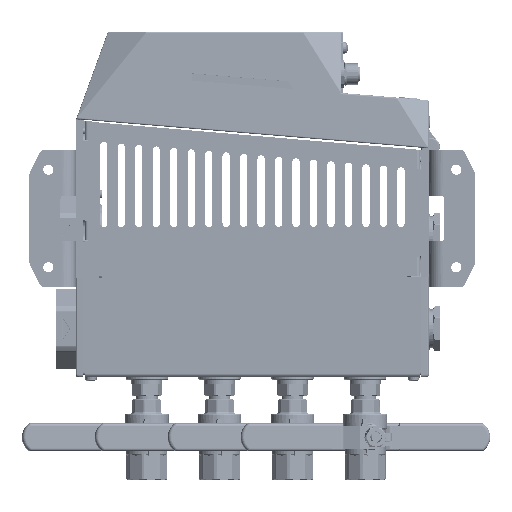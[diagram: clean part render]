
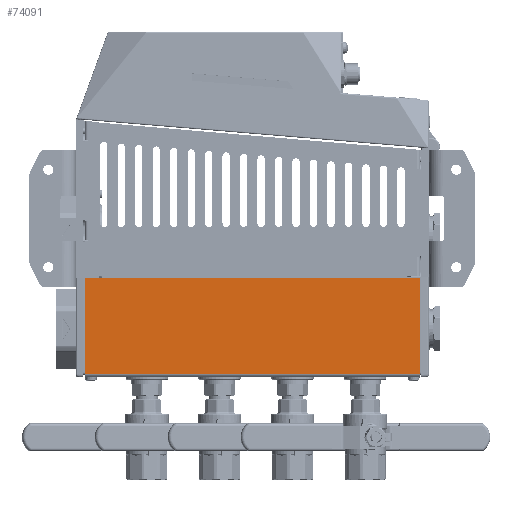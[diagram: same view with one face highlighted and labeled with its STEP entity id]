
A CAD part, left-side view. The second image highlights one B-rep face of the part: STEP entity #74091.
In plain terms, the highlighted planar face has unit normal (-1, 0, 0) as drawn and (0, -1, 0) by its records, which use the part's own axes.
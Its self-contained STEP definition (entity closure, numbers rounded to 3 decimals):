
#667 = VECTOR ( 'NONE', #135180, 1000. ) ;
#12680 = CARTESIAN_POINT ( 'NONE',  ( 67., -84., 114. ) ) ;
#14188 = VERTEX_POINT ( 'NONE', #307309 ) ;
#24443 = EDGE_LOOP ( 'NONE', ( #127348, #259885, #280673, #180350, #246643, #103705 ) ) ;
#74091 = ADVANCED_FACE ( 'NONE', ( #353110 ), #322334, .T. ) ;
#74755 = DIRECTION ( 'NONE',  ( 0., 0., -1. ) ) ;
#84062 = DIRECTION ( 'NONE',  ( 0., 1., 0. ) ) ;
#87153 = DIRECTION ( 'NONE',  ( 0., 0., -1. ) ) ;
#97928 = EDGE_CURVE ( 'NONE', #223920, #201140, #266565, .T. ) ;
#101214 = EDGE_CURVE ( 'NONE', #203849, #304661, #194872, .T. ) ;
#102175 = CIRCLE ( 'NONE', #310320, 1. ) ;
#103705 = ORIENTED_EDGE ( 'NONE', *, *, #192013, .F. ) ;
#105300 = EDGE_CURVE ( 'NONE', #201140, #167337, #102175, .T. ) ;
#109870 = CARTESIAN_POINT ( 'NONE',  ( 0., -84., -115. ) ) ;
#126757 = CARTESIAN_POINT ( 'NONE',  ( 0., -84., 115. ) ) ;
#127348 = ORIENTED_EDGE ( 'NONE', *, *, #219606, .F. ) ;
#133633 = VECTOR ( 'NONE', #87153, 1000. ) ;
#135180 = DIRECTION ( 'NONE',  ( 1., 0., 0. ) ) ;
#144992 = DIRECTION ( 'NONE',  ( 0., 1., 0. ) ) ;
#149033 = CARTESIAN_POINT ( 'NONE',  ( 68., -84., 115. ) ) ;
#165421 = DIRECTION ( 'NONE',  ( -1., 0., 0. ) ) ;
#167337 = VERTEX_POINT ( 'NONE', #339656 ) ;
#180350 = ORIENTED_EDGE ( 'NONE', *, *, #182591, .T. ) ;
#181828 = AXIS2_PLACEMENT_3D ( 'NONE', #357513, #84062, #165421 ) ;
#182591 = EDGE_CURVE ( 'NONE', #223920, #203849, #333488, .T. ) ;
#184981 = VECTOR ( 'NONE', #74755, 1000. ) ;
#192013 = EDGE_CURVE ( 'NONE', #14188, #304661, #326486, .T. ) ;
#194872 = LINE ( 'NONE', #109870, #667 ) ;
#201140 = VERTEX_POINT ( 'NONE', #247199 ) ;
#203849 = VERTEX_POINT ( 'NONE', #310798 ) ;
#215294 = DIRECTION ( 'NONE',  ( -1., 0., 0. ) ) ;
#217793 = CARTESIAN_POINT ( 'NONE',  ( 67., -84., -115. ) ) ;
#219606 = EDGE_CURVE ( 'NONE', #167337, #14188, #320963, .T. ) ;
#223920 = VERTEX_POINT ( 'NONE', #267248 ) ;
#239676 = CARTESIAN_POINT ( 'NONE',  ( 2., -84., 115. ) ) ;
#246643 = ORIENTED_EDGE ( 'NONE', *, *, #101214, .T. ) ;
#247199 = CARTESIAN_POINT ( 'NONE',  ( 67., -84., 115. ) ) ;
#255243 = DIRECTION ( 'NONE',  ( -1., 0., 0. ) ) ;
#259885 = ORIENTED_EDGE ( 'NONE', *, *, #105300, .F. ) ;
#266565 = LINE ( 'NONE', #348354, #333360 ) ;
#267248 = CARTESIAN_POINT ( 'NONE',  ( 2., -84., 115. ) ) ;
#267787 = DIRECTION ( 'NONE',  ( 0., -1., 0. ) ) ;
#280673 = ORIENTED_EDGE ( 'NONE', *, *, #97928, .F. ) ;
#304661 = VERTEX_POINT ( 'NONE', #217793 ) ;
#307309 = CARTESIAN_POINT ( 'NONE',  ( 68., -84., -114. ) ) ;
#307785 = AXIS2_PLACEMENT_3D ( 'NONE', #126757, #267787, #215294 ) ;
#310320 = AXIS2_PLACEMENT_3D ( 'NONE', #12680, #144992, #255243 ) ;
#310798 = CARTESIAN_POINT ( 'NONE',  ( 2., -84., -115. ) ) ;
#320963 = LINE ( 'NONE', #149033, #184981 ) ;
#322334 = PLANE ( 'NONE',  #307785 ) ;
#326486 = CIRCLE ( 'NONE', #181828, 1. ) ;
#333360 = VECTOR ( 'NONE', #346552, 1000. ) ;
#333488 = LINE ( 'NONE', #239676, #133633 ) ;
#339656 = CARTESIAN_POINT ( 'NONE',  ( 68., -84., 114. ) ) ;
#346552 = DIRECTION ( 'NONE',  ( 1., 0., 0. ) ) ;
#348354 = CARTESIAN_POINT ( 'NONE',  ( 0., -84., 115. ) ) ;
#353110 = FACE_OUTER_BOUND ( 'NONE', #24443, .T. ) ;
#357513 = CARTESIAN_POINT ( 'NONE',  ( 67., -84., -114. ) ) ;
